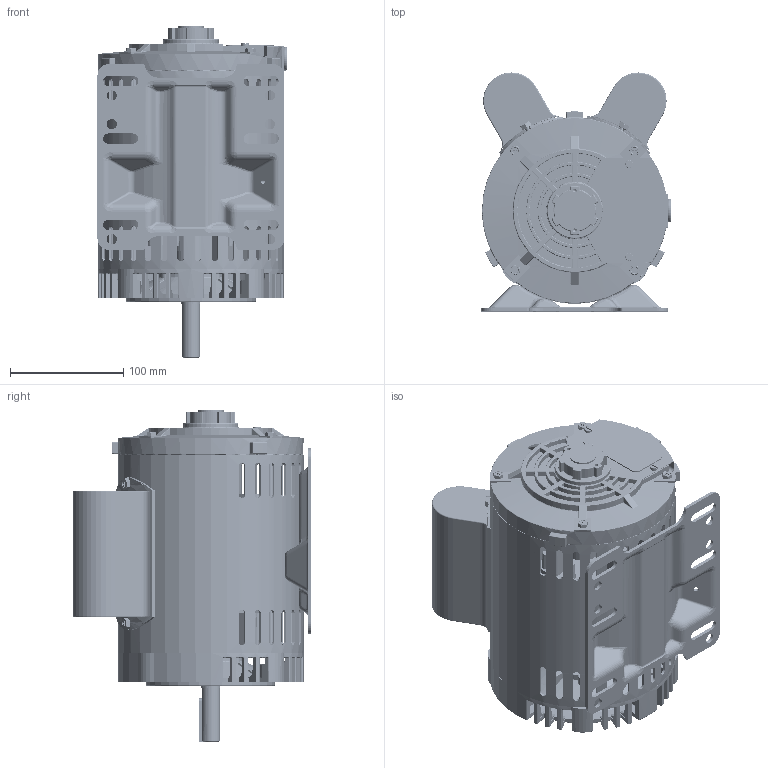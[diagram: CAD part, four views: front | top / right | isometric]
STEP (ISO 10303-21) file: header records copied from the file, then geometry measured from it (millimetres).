
FILE_DESCRIPTION (( 'STEP AP203' ), '1' );
FILE_NAME ('OPE 12-18-56CB.STEP', '2025-03-04T07:58:06', ( 'User' ), ( 'China' ), 'SwSTEP 2.0', 'SolidWorks 2019', '' );
FILE_SCHEMA (( 'CONFIG_CONTROL_DESIGN' ));
Products named in the file (3): OPE 12-18-56; d; OPE 12-18-56CB
Assembly tree (2 placements, depth 2):
  OPE 12-18-56CB
    OPE 12-18-56
    d
Bounding box: 167 x 210.87 x 293.15 mm (x, y, z)
Volume: 1361574.7 mm3; surface area: 645379.2 mm2
Topology: 26 solids, 29 shells, 4083 faces, 10816 edges, 6735 vertices
Faces by surface type: cylinder 1740, plane 1234, torus 457, bspline 341, cone 207, sphere 104
Entity records: 176840 total; most frequent: CARTESIAN_POINT 80219, ORIENTED_EDGE 21396, DIRECTION 18753, EDGE_CURVE 10698, AXIS2_PLACEMENT_3D 7110, VERTEX_POINT 6728, VECTOR 4533, LINE 4533
